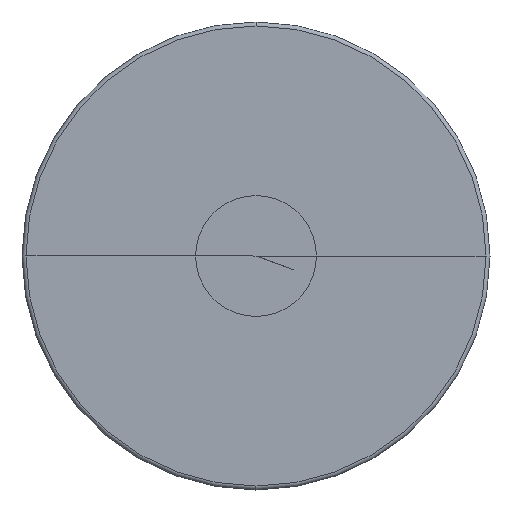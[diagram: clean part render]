
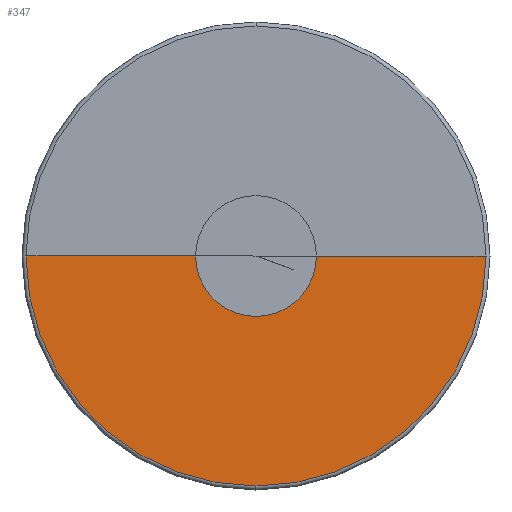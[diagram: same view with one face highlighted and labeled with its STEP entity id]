
A CAD part, front view. The second image highlights one B-rep face of the part: STEP entity #347.
In plain terms, the highlighted conical face has half-angle 89.999 degrees and reference radius 37.242 mm.
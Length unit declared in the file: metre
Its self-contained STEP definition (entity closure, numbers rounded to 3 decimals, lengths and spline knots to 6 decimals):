
#347=ADVANCED_FACE('1:579',(#622),#623,.F.);
#622=FACE_OUTER_BOUND('',#3276,.T.);
#623=CONICAL_SURFACE('',#3277,0.037242,1.571);
#3276=EDGE_LOOP('',(#4205,#4206,#4207,#4208,#4209));
#3277=AXIS2_PLACEMENT_3D('',#4210,#4211,#4212);
#4205=ORIENTED_EDGE('',*,*,#4622,.F.);
#4206=ORIENTED_EDGE('',*,*,#4623,.F.);
#4207=ORIENTED_EDGE('',*,*,#4619,.F.);
#4208=ORIENTED_EDGE('',*,*,#4624,.F.);
#4209=ORIENTED_EDGE('',*,*,#4625,.T.);
#4210=CARTESIAN_POINT('',(0.0,0.004,0.0));
#4211=DIRECTION('',(-0.0,-1.0,0.0));
#4212=DIRECTION('',(-1.0,0.0,0.0));
#4619=EDGE_CURVE('1:1707',#5129,#5131,#5132,.T.);
#4622=EDGE_CURVE('',#5135,#5136,#5137,.T.);
#4623=EDGE_CURVE('1:1707',#5131,#5135,#5138,.T.);
#4624=EDGE_CURVE('',#5139,#5129,#5140,.T.);
#4625=EDGE_CURVE('1:1704',#5139,#5136,#5141,.T.);
#5129=VERTEX_POINT('',#74159);
#5131=VERTEX_POINT('',#74161);
#5132=CIRCLE('',#74162,0.058984);
#5135=VERTEX_POINT('',#74165);
#5136=VERTEX_POINT('',#74166);
#5137=LINE('',#74167,#74168);
#5138=CIRCLE('',#74169,0.058984);
#5139=VERTEX_POINT('',#74170);
#5140=LINE('',#74171,#74172);
#5141=CIRCLE('',#74173,0.015499);
#74159=CARTESIAN_POINT('',(0.058984,0.004,0.));
#74161=CARTESIAN_POINT('',(0.,0.004,-0.058984));
#74162=AXIS2_PLACEMENT_3D('',#74710,#74711,#74712);
#74165=CARTESIAN_POINT('',(-0.058984,0.004,0.));
#74166=CARTESIAN_POINT('',(-0.015499,0.004001,0.));
#74167=CARTESIAN_POINT('',(-0.037242,0.004,0.));
#74168=VECTOR('',#74719,1.0);
#74169=AXIS2_PLACEMENT_3D('',#74720,#74721,#74722);
#74170=CARTESIAN_POINT('',(0.015499,0.004001,0.));
#74171=CARTESIAN_POINT('',(0.037242,0.004,0.));
#74172=VECTOR('',#74723,1.0);
#74173=AXIS2_PLACEMENT_3D('',#74724,#74725,#74726);
#74710=CARTESIAN_POINT('',(0.0,0.004,0.0));
#74711=DIRECTION('',(-0.0,1.0,0.0));
#74712=DIRECTION('',(1.0,0.0,0.0));
#74719=DIRECTION('',(1.,0.,0.));
#74720=CARTESIAN_POINT('',(0.0,0.004,0.0));
#74721=DIRECTION('',(-0.0,1.0,0.0));
#74722=DIRECTION('',(1.0,0.0,0.0));
#74723=DIRECTION('',(1.,0.,0.));
#74724=CARTESIAN_POINT('',(0.0,0.004001,0.0));
#74725=DIRECTION('',(-0.0,1.0,0.0));
#74726=DIRECTION('',(1.0,0.0,0.0));
